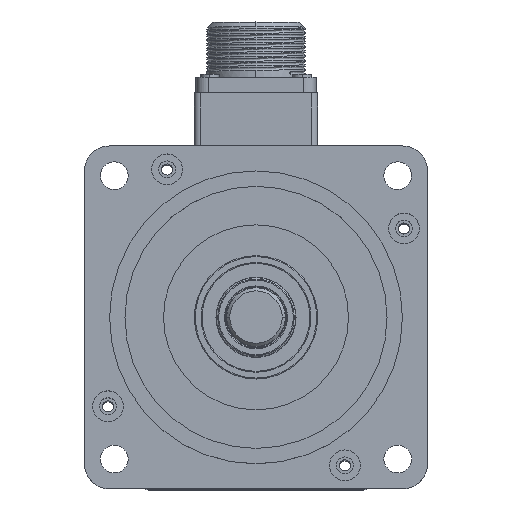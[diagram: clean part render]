
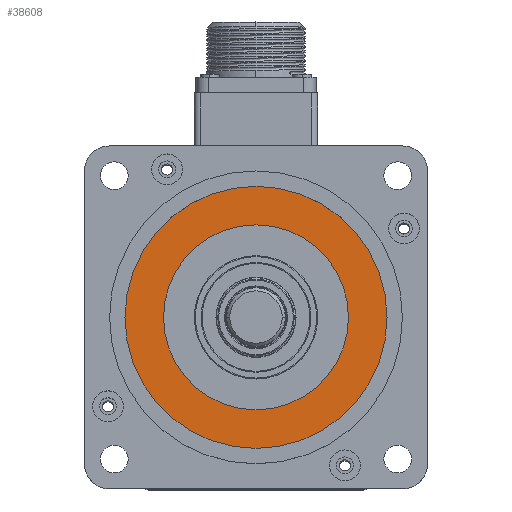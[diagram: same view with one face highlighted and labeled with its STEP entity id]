
A CAD part, top view. The second image highlights one B-rep face of the part: STEP entity #38608.
In plain terms, the highlighted planar face has unit normal (0, 0, 1) as drawn and (1, 0, 0) by its records, which use the part's own axes.
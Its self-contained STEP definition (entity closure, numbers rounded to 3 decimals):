
#2059 = VERTEX_POINT ( 'NONE', #38291 ) ;
#4384 = DIRECTION ( 'NONE',  ( -1., 0., 0. ) ) ;
#7060 = EDGE_CURVE ( 'NONE', #34362, #15626, #13984, .T. ) ;
#8132 = CIRCLE ( 'NONE', #12329, 42.5 ) ;
#9330 = DIRECTION ( 'NONE',  ( -1., 0., 0. ) ) ;
#10326 = EDGE_LOOP ( 'NONE', ( #34153, #32228 ) ) ;
#11193 = DIRECTION ( 'NONE',  ( -1., 0., 0. ) ) ;
#11745 = AXIS2_PLACEMENT_3D ( 'NONE', #15088, #11193, #39501 ) ;
#12329 = AXIS2_PLACEMENT_3D ( 'NONE', #15397, #43701, #19459 ) ;
#13984 = CIRCLE ( 'NONE', #26721, 42.5 ) ;
#14786 = EDGE_CURVE ( 'NONE', #15626, #34362, #8132, .T. ) ;
#15088 = CARTESIAN_POINT ( 'NONE',  ( 12.5, 30., 0. ) ) ;
#15397 = CARTESIAN_POINT ( 'NONE',  ( 12.5, 0., 0. ) ) ;
#15626 = VERTEX_POINT ( 'NONE', #45402 ) ;
#17823 = AXIS2_PLACEMENT_3D ( 'NONE', #28694, #4384, #32755 ) ;
#19459 = DIRECTION ( 'NONE',  ( 0., 0., 1. ) ) ;
#20825 = CIRCLE ( 'NONE', #17823, 30. ) ;
#22559 = EDGE_LOOP ( 'NONE', ( #25319, #46752 ) ) ;
#22939 = DIRECTION ( 'NONE',  ( -1., 0., 0. ) ) ;
#23059 = FACE_BOUND ( 'NONE', #22559, .T. ) ;
#24314 = FACE_OUTER_BOUND ( 'NONE', #10326, .T. ) ;
#25319 = ORIENTED_EDGE ( 'NONE', *, *, #51250, .T. ) ;
#26721 = AXIS2_PLACEMENT_3D ( 'NONE', #33592, #9330, #37652 ) ;
#28694 = CARTESIAN_POINT ( 'NONE',  ( 12.5, 0., 0. ) ) ;
#29044 = AXIS2_PLACEMENT_3D ( 'NONE', #47165, #22939, #51227 ) ;
#29554 = EDGE_CURVE ( 'NONE', #2059, #48843, #40430, .T. ) ;
#32228 = ORIENTED_EDGE ( 'NONE', *, *, #14786, .F. ) ;
#32755 = DIRECTION ( 'NONE',  ( 0., 0., 1. ) ) ;
#33592 = CARTESIAN_POINT ( 'NONE',  ( 12.5, 0., 0. ) ) ;
#34153 = ORIENTED_EDGE ( 'NONE', *, *, #7060, .F. ) ;
#34362 = VERTEX_POINT ( 'NONE', #42792 ) ;
#37652 = DIRECTION ( 'NONE',  ( 0., 0., 1. ) ) ;
#38291 = CARTESIAN_POINT ( 'NONE',  ( 12.5, 0., -30. ) ) ;
#38608 = ADVANCED_FACE ( 'NONE', ( #24314, #23059 ), #39327, .F. ) ;
#39327 = PLANE ( 'NONE',  #11745 ) ;
#39501 = DIRECTION ( 'NONE',  ( 0., 0., 1. ) ) ;
#40430 = CIRCLE ( 'NONE', #29044, 30. ) ;
#41040 = CARTESIAN_POINT ( 'NONE',  ( 12.5, 0., 30. ) ) ;
#42792 = CARTESIAN_POINT ( 'NONE',  ( 12.5, 0., 42.5 ) ) ;
#43701 = DIRECTION ( 'NONE',  ( -1., 0., 0. ) ) ;
#45402 = CARTESIAN_POINT ( 'NONE',  ( 12.5, 0., -42.5 ) ) ;
#46752 = ORIENTED_EDGE ( 'NONE', *, *, #29554, .T. ) ;
#47165 = CARTESIAN_POINT ( 'NONE',  ( 12.5, 0., 0. ) ) ;
#48843 = VERTEX_POINT ( 'NONE', #41040 ) ;
#51227 = DIRECTION ( 'NONE',  ( 0., 0., 1. ) ) ;
#51250 = EDGE_CURVE ( 'NONE', #48843, #2059, #20825, .T. ) ;
